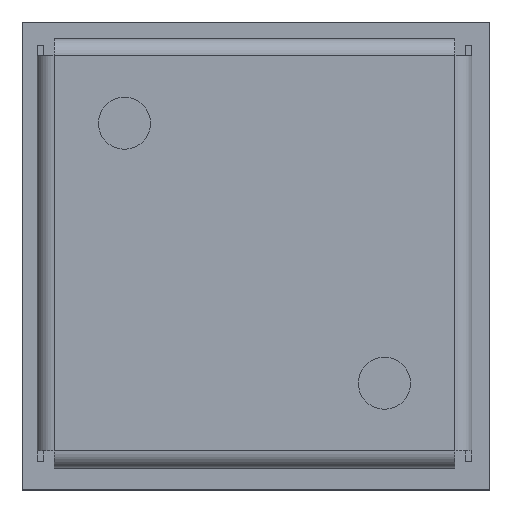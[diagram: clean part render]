
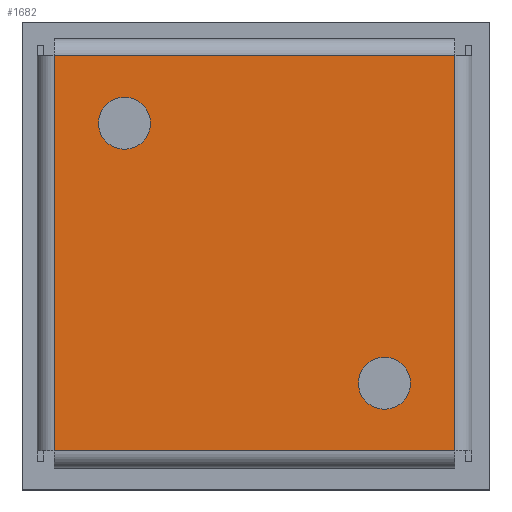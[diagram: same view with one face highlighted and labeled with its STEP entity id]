
A CAD part, top view. The second image highlights one B-rep face of the part: STEP entity #1682.
In plain terms, the highlighted planar face has unit normal (0, 0, 1).
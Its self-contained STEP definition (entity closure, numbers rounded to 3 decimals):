
#38 = ORIENTED_EDGE ( 'NONE', *, *, #2049, .T. ) ;
#72 = CIRCLE ( 'NONE', #1904, 0.5 ) ;
#84 = EDGE_LOOP ( 'NONE', ( #38, #1475, #527, #165 ) ) ;
#91 = CARTESIAN_POINT ( 'NONE',  ( 8.52, -8.25, 1.3 ) ) ;
#103 = ORIENTED_EDGE ( 'NONE', *, *, #1480, .T. ) ;
#165 = ORIENTED_EDGE ( 'NONE', *, *, #185, .T. ) ;
#185 = EDGE_CURVE ( 'NONE', #1678, #1976, #2062, .T. ) ;
#197 = CIRCLE ( 'NONE', #1361, 0.5 ) ;
#240 = DIRECTION ( 'NONE',  ( 0., 1., 0. ) ) ;
#252 = FACE_BOUND ( 'NONE', #2047, .T. ) ;
#285 = DIRECTION ( 'NONE',  ( 1., 0., 0. ) ) ;
#288 = VERTEX_POINT ( 'NONE', #649 ) ;
#368 = AXIS2_PLACEMENT_3D ( 'NONE', #393, #558, #565 ) ;
#375 = CARTESIAN_POINT ( 'NONE',  ( 8.52, -0.65, 1.3 ) ) ;
#393 = CARTESIAN_POINT ( 'NONE',  ( 1.97, -1.95, 1.3 ) ) ;
#412 = CARTESIAN_POINT ( 'NONE',  ( 0.62, -8.25, 1.3 ) ) ;
#413 = VERTEX_POINT ( 'NONE', #1679 ) ;
#427 = CARTESIAN_POINT ( 'NONE',  ( 8.52, -8.45, 1.3 ) ) ;
#432 = VECTOR ( 'NONE', #479, 1000. ) ;
#442 = CARTESIAN_POINT ( 'NONE',  ( 6.97, -7.45, 1.3 ) ) ;
#479 = DIRECTION ( 'NONE',  ( 0., 1., 0. ) ) ;
#493 = ORIENTED_EDGE ( 'NONE', *, *, #919, .T. ) ;
#494 = EDGE_CURVE ( 'NONE', #288, #1325, #1020, .T. ) ;
#515 = VECTOR ( 'NONE', #1376, 1000. ) ;
#516 = FACE_BOUND ( 'NONE', #1773, .T. ) ;
#527 = ORIENTED_EDGE ( 'NONE', *, *, #1060, .T. ) ;
#558 = DIRECTION ( 'NONE',  ( 0., 0., -1. ) ) ;
#565 = DIRECTION ( 'NONE',  ( 0., 1., 0. ) ) ;
#631 = VERTEX_POINT ( 'NONE', #442 ) ;
#649 = CARTESIAN_POINT ( 'NONE',  ( 8.32, -0.65, 1.3 ) ) ;
#718 = DIRECTION ( 'NONE',  ( 0., 1., 0. ) ) ;
#746 = LINE ( 'NONE', #1284, #432 ) ;
#850 = VERTEX_POINT ( 'NONE', #2014 ) ;
#914 = DIRECTION ( 'NONE',  ( 0., 0., -1. ) ) ;
#919 = EDGE_CURVE ( 'NONE', #850, #1046, #197, .T. ) ;
#1020 = LINE ( 'NONE', #375, #515 ) ;
#1046 = VERTEX_POINT ( 'NONE', #1379 ) ;
#1060 = EDGE_CURVE ( 'NONE', #1325, #1678, #1746, .T. ) ;
#1073 = DIRECTION ( 'NONE',  ( 0., 1., 0. ) ) ;
#1150 = FACE_OUTER_BOUND ( 'NONE', #84, .T. ) ;
#1196 = CIRCLE ( 'NONE', #368, 0.5 ) ;
#1198 = VECTOR ( 'NONE', #285, 1000. ) ;
#1252 = CARTESIAN_POINT ( 'NONE',  ( 0.62, -0.65, 1.3 ) ) ;
#1284 = CARTESIAN_POINT ( 'NONE',  ( 8.32, -8.45, 1.3 ) ) ;
#1291 = VECTOR ( 'NONE', #2057, 1000. ) ;
#1325 = VERTEX_POINT ( 'NONE', #1252 ) ;
#1350 = ORIENTED_EDGE ( 'NONE', *, *, #1547, .T. ) ;
#1361 = AXIS2_PLACEMENT_3D ( 'NONE', #1515, #2021, #1073 ) ;
#1371 = CARTESIAN_POINT ( 'NONE',  ( 8.32, -8.25, 1.3 ) ) ;
#1376 = DIRECTION ( 'NONE',  ( -1., 0., 0. ) ) ;
#1379 = CARTESIAN_POINT ( 'NONE',  ( 1.97, -2.45, 1.3 ) ) ;
#1401 = DIRECTION ( 'NONE',  ( 0., 0., 1. ) ) ;
#1402 = CARTESIAN_POINT ( 'NONE',  ( 6.97, -6.95, 1.3 ) ) ;
#1418 = PLANE ( 'NONE',  #1636 ) ;
#1470 = AXIS2_PLACEMENT_3D ( 'NONE', #1550, #1534, #718 ) ;
#1475 = ORIENTED_EDGE ( 'NONE', *, *, #494, .T. ) ;
#1476 = EDGE_CURVE ( 'NONE', #413, #631, #1743, .T. ) ;
#1480 = EDGE_CURVE ( 'NONE', #1046, #850, #1196, .T. ) ;
#1515 = CARTESIAN_POINT ( 'NONE',  ( 1.97, -1.95, 1.3 ) ) ;
#1532 = CARTESIAN_POINT ( 'NONE',  ( 0.62, -8.45, 1.3 ) ) ;
#1534 = DIRECTION ( 'NONE',  ( 0., 0., -1. ) ) ;
#1547 = EDGE_CURVE ( 'NONE', #631, #413, #72, .T. ) ;
#1550 = CARTESIAN_POINT ( 'NONE',  ( 6.97, -6.95, 1.3 ) ) ;
#1568 = DIRECTION ( 'NONE',  ( 0., -1., 0. ) ) ;
#1636 = AXIS2_PLACEMENT_3D ( 'NONE', #427, #1401, #1568 ) ;
#1678 = VERTEX_POINT ( 'NONE', #412 ) ;
#1679 = CARTESIAN_POINT ( 'NONE',  ( 6.97, -6.45, 1.3 ) ) ;
#1682 = ADVANCED_FACE ( 'NONE', ( #1150, #252, #516 ), #1418, .T. ) ;
#1743 = CIRCLE ( 'NONE', #1470, 0.5 ) ;
#1746 = LINE ( 'NONE', #1532, #1291 ) ;
#1773 = EDGE_LOOP ( 'NONE', ( #2121, #1350 ) ) ;
#1904 = AXIS2_PLACEMENT_3D ( 'NONE', #1402, #914, #240 ) ;
#1976 = VERTEX_POINT ( 'NONE', #1371 ) ;
#2014 = CARTESIAN_POINT ( 'NONE',  ( 1.97, -1.45, 1.3 ) ) ;
#2021 = DIRECTION ( 'NONE',  ( 0., 0., -1. ) ) ;
#2047 = EDGE_LOOP ( 'NONE', ( #493, #103 ) ) ;
#2049 = EDGE_CURVE ( 'NONE', #1976, #288, #746, .T. ) ;
#2057 = DIRECTION ( 'NONE',  ( 0., -1., 0. ) ) ;
#2062 = LINE ( 'NONE', #91, #1198 ) ;
#2121 = ORIENTED_EDGE ( 'NONE', *, *, #1476, .T. ) ;
